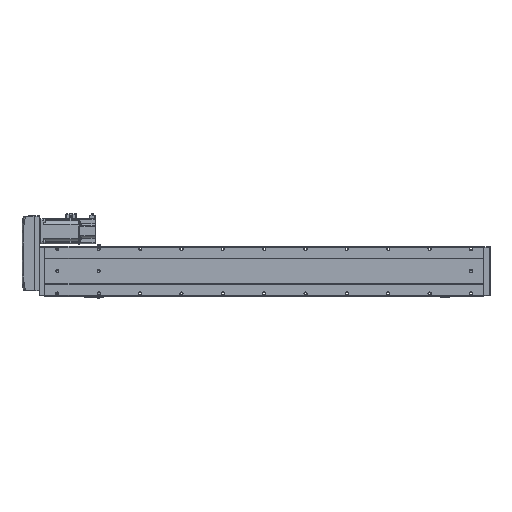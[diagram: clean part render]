
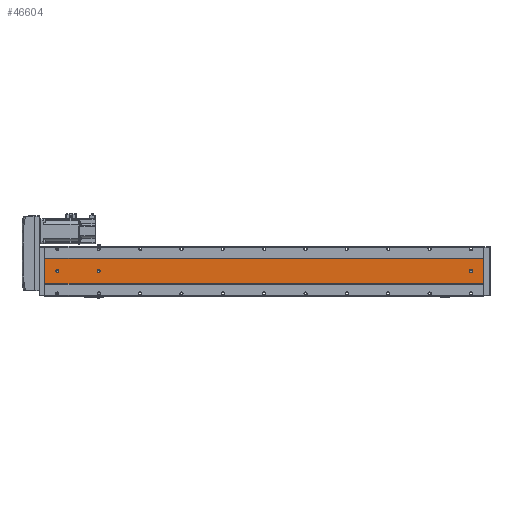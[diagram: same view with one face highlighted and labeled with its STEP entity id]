
A CAD part, front view. The second image highlights one B-rep face of the part: STEP entity #46604.
In plain terms, the highlighted planar face has unit normal (0, -1, 0).
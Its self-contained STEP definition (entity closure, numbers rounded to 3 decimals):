
#214 = EDGE_CURVE ( 'NONE', #59429, #60020, #106039, .T. ) ;
#1721 = EDGE_CURVE ( 'NONE', #69744, #11440, #61436, .T. ) ;
#2120 = ORIENTED_EDGE ( 'NONE', *, *, #214, .T. ) ;
#3124 = LINE ( 'NONE', #102162, #16514 ) ;
#3532 = DIRECTION ( 'NONE',  ( 1., 0., 0. ) ) ;
#5937 = DIRECTION ( 'NONE',  ( 0., 1., 0. ) ) ;
#6012 = DIRECTION ( 'NONE',  ( 0., 0., 1. ) ) ;
#6776 = VECTOR ( 'NONE', #53075, 1000. ) ;
#8789 = VERTEX_POINT ( 'NONE', #87831 ) ;
#11373 = ORIENTED_EDGE ( 'NONE', *, *, #17008, .T. ) ;
#11440 = VERTEX_POINT ( 'NONE', #28250 ) ;
#12018 = ORIENTED_EDGE ( 'NONE', *, *, #91491, .T. ) ;
#13884 = CARTESIAN_POINT ( 'NONE',  ( -43.392, -52.848, 30. ) ) ;
#14081 = ORIENTED_EDGE ( 'NONE', *, *, #103737, .F. ) ;
#14409 = AXIS2_PLACEMENT_3D ( 'NONE', #73999, #22582, #56545 ) ;
#15015 = LINE ( 'NONE', #51047, #49701 ) ;
#16429 = CARTESIAN_POINT ( 'NONE',  ( -9.892, -52.848, 0. ) ) ;
#16514 = VECTOR ( 'NONE', #51102, 1000. ) ;
#17008 = EDGE_CURVE ( 'NONE', #60020, #59429, #83504, .T. ) ;
#22202 = CARTESIAN_POINT ( 'NONE',  ( -43.392, -52.848, 1061. ) ) ;
#22582 = DIRECTION ( 'NONE',  ( 0., 1., 0. ) ) ;
#22887 = AXIS2_PLACEMENT_3D ( 'NONE', #43689, #103341, #60896 ) ;
#23100 = DIRECTION ( 'NONE',  ( 0., 0., 1. ) ) ;
#23394 = VERTEX_POINT ( 'NONE', #48844 ) ;
#23539 = CARTESIAN_POINT ( 'NONE',  ( -39.892, -52.848, 32. ) ) ;
#23575 = ORIENTED_EDGE ( 'NONE', *, *, #100267, .T. ) ;
#24083 = AXIS2_PLACEMENT_3D ( 'NONE', #59485, #76958, #51991 ) ;
#25051 = AXIS2_PLACEMENT_3D ( 'NONE', #105624, #46669, #80246 ) ;
#27269 = PLANE ( 'NONE',  #25051 ) ;
#28250 = CARTESIAN_POINT ( 'NONE',  ( -39.892, -52.848, 927.5 ) ) ;
#28516 = ORIENTED_EDGE ( 'NONE', *, *, #91723, .T. ) ;
#29671 = EDGE_LOOP ( 'NONE', ( #84544, #40377, #14081, #95118 ) ) ;
#31650 = FACE_BOUND ( 'NONE', #102307, .T. ) ;
#31703 = CIRCLE ( 'NONE', #14409, 3.5 ) ;
#34297 = VECTOR ( 'NONE', #3532, 1000. ) ;
#36549 = CARTESIAN_POINT ( 'NONE',  ( -36.392, -52.848, 32. ) ) ;
#37709 = VERTEX_POINT ( 'NONE', #75603 ) ;
#37889 = CARTESIAN_POINT ( 'NONE',  ( -69.892, -52.848, 0. ) ) ;
#39947 = EDGE_LOOP ( 'NONE', ( #107625, #61508 ) ) ;
#40377 = ORIENTED_EDGE ( 'NONE', *, *, #54669, .F. ) ;
#40960 = LINE ( 'NONE', #22202, #65008 ) ;
#41683 = EDGE_CURVE ( 'NONE', #72516, #92075, #57130, .T. ) ;
#41841 = CARTESIAN_POINT ( 'NONE',  ( -39.892, -52.848, 1027.5 ) ) ;
#41848 = DIRECTION ( 'NONE',  ( 0., 0., 1. ) ) ;
#43689 = CARTESIAN_POINT ( 'NONE',  ( -39.892, -52.848, 931. ) ) ;
#44155 = LINE ( 'NONE', #60930, #6776 ) ;
#46368 = ORIENTED_EDGE ( 'NONE', *, *, #68066, .T. ) ;
#46604 = ADVANCED_FACE ( 'NONE', ( #31650, #102374, #83697, #61044 ), #27269, .F. ) ;
#46669 = DIRECTION ( 'NONE',  ( 0., 1., 0. ) ) ;
#48844 = CARTESIAN_POINT ( 'NONE',  ( -43.392, -52.848, 32. ) ) ;
#49311 = VERTEX_POINT ( 'NONE', #13884 ) ;
#49701 = VECTOR ( 'NONE', #59672, 1000. ) ;
#51047 = CARTESIAN_POINT ( 'NONE',  ( -36.392, -52.848, 1061. ) ) ;
#51102 = DIRECTION ( 'NONE',  ( 0., 0., -1. ) ) ;
#51991 = DIRECTION ( 'NONE',  ( 0., 0., 1. ) ) ;
#52342 = VERTEX_POINT ( 'NONE', #61897 ) ;
#53075 = DIRECTION ( 'NONE',  ( 1., 0., 0. ) ) ;
#54473 = CIRCLE ( 'NONE', #86578, 3.5 ) ;
#54669 = EDGE_CURVE ( 'NONE', #8789, #92075, #3124, .T. ) ;
#56496 = CIRCLE ( 'NONE', #106231, 3.5 ) ;
#56545 = DIRECTION ( 'NONE',  ( 0., 0., 1. ) ) ;
#57130 = LINE ( 'NONE', #89345, #34297 ) ;
#57596 = CARTESIAN_POINT ( 'NONE',  ( -69.892, -52.848, 1061. ) ) ;
#59429 = VERTEX_POINT ( 'NONE', #99364 ) ;
#59485 = CARTESIAN_POINT ( 'NONE',  ( -39.892, -52.848, 931. ) ) ;
#59672 = DIRECTION ( 'NONE',  ( 0., 0., -1. ) ) ;
#60020 = VERTEX_POINT ( 'NONE', #41841 ) ;
#60791 = CARTESIAN_POINT ( 'NONE',  ( -39.892, -52.848, 26.5 ) ) ;
#60896 = DIRECTION ( 'NONE',  ( 0., 0., 1. ) ) ;
#60930 = CARTESIAN_POINT ( 'NONE',  ( -69.892, -52.848, 1061. ) ) ;
#61044 = FACE_OUTER_BOUND ( 'NONE', #29671, .T. ) ;
#61436 = CIRCLE ( 'NONE', #24083, 3.5 ) ;
#61508 = ORIENTED_EDGE ( 'NONE', *, *, #1721, .T. ) ;
#61897 = CARTESIAN_POINT ( 'NONE',  ( -36.392, -52.848, 30. ) ) ;
#65008 = VECTOR ( 'NONE', #90461, 1000. ) ;
#65949 = EDGE_LOOP ( 'NONE', ( #11373, #2120 ) ) ;
#66402 = VERTEX_POINT ( 'NONE', #60791 ) ;
#68066 = EDGE_CURVE ( 'NONE', #49311, #23394, #40960, .T. ) ;
#69744 = VERTEX_POINT ( 'NONE', #103158 ) ;
#69955 = LINE ( 'NONE', #57596, #80650 ) ;
#72516 = VERTEX_POINT ( 'NONE', #37889 ) ;
#73999 = CARTESIAN_POINT ( 'NONE',  ( -39.892, -52.848, 30. ) ) ;
#75394 = AXIS2_PLACEMENT_3D ( 'NONE', #110291, #101675, #102046 ) ;
#75451 = DIRECTION ( 'NONE',  ( 0., 1., 0. ) ) ;
#75603 = CARTESIAN_POINT ( 'NONE',  ( -69.892, -52.848, 1061. ) ) ;
#76620 = EDGE_CURVE ( 'NONE', #23394, #87930, #56496, .T. ) ;
#76958 = DIRECTION ( 'NONE',  ( 0., 1., 0. ) ) ;
#80246 = DIRECTION ( 'NONE',  ( 0., 0., 1. ) ) ;
#80650 = VECTOR ( 'NONE', #83281, 1000. ) ;
#81795 = AXIS2_PLACEMENT_3D ( 'NONE', #107442, #5937, #23100 ) ;
#83281 = DIRECTION ( 'NONE',  ( 0., 0., -1. ) ) ;
#83504 = CIRCLE ( 'NONE', #81795, 3.5 ) ;
#83697 = FACE_BOUND ( 'NONE', #65949, .T. ) ;
#84376 = CARTESIAN_POINT ( 'NONE',  ( -39.892, -52.848, 30. ) ) ;
#84544 = ORIENTED_EDGE ( 'NONE', *, *, #41683, .T. ) ;
#86578 = AXIS2_PLACEMENT_3D ( 'NONE', #84376, #75451, #41848 ) ;
#87831 = CARTESIAN_POINT ( 'NONE',  ( -9.892, -52.848, 1061. ) ) ;
#87930 = VERTEX_POINT ( 'NONE', #36549 ) ;
#89345 = CARTESIAN_POINT ( 'NONE',  ( -69.892, -52.848, 0. ) ) ;
#89595 = EDGE_CURVE ( 'NONE', #11440, #69744, #106191, .T. ) ;
#90461 = DIRECTION ( 'NONE',  ( 0., 0., 1. ) ) ;
#91491 = EDGE_CURVE ( 'NONE', #66402, #49311, #31703, .T. ) ;
#91723 = EDGE_CURVE ( 'NONE', #52342, #66402, #54473, .T. ) ;
#92075 = VERTEX_POINT ( 'NONE', #16429 ) ;
#95118 = ORIENTED_EDGE ( 'NONE', *, *, #106262, .T. ) ;
#99364 = CARTESIAN_POINT ( 'NONE',  ( -39.892, -52.848, 1034.5 ) ) ;
#100267 = EDGE_CURVE ( 'NONE', #87930, #52342, #15015, .T. ) ;
#101665 = ORIENTED_EDGE ( 'NONE', *, *, #76620, .T. ) ;
#101675 = DIRECTION ( 'NONE',  ( 0., 1., 0. ) ) ;
#102046 = DIRECTION ( 'NONE',  ( 0., 0., 1. ) ) ;
#102162 = CARTESIAN_POINT ( 'NONE',  ( -9.892, -52.848, 1061. ) ) ;
#102307 = EDGE_LOOP ( 'NONE', ( #46368, #101665, #23575, #28516, #12018 ) ) ;
#102374 = FACE_BOUND ( 'NONE', #39947, .T. ) ;
#103158 = CARTESIAN_POINT ( 'NONE',  ( -39.892, -52.848, 934.5 ) ) ;
#103341 = DIRECTION ( 'NONE',  ( 0., 1., 0. ) ) ;
#103737 = EDGE_CURVE ( 'NONE', #37709, #8789, #44155, .T. ) ;
#105624 = CARTESIAN_POINT ( 'NONE',  ( -69.892, -52.848, 1061. ) ) ;
#106039 = CIRCLE ( 'NONE', #75394, 3.5 ) ;
#106191 = CIRCLE ( 'NONE', #22887, 3.5 ) ;
#106231 = AXIS2_PLACEMENT_3D ( 'NONE', #23539, #108587, #6012 ) ;
#106262 = EDGE_CURVE ( 'NONE', #37709, #72516, #69955, .T. ) ;
#107442 = CARTESIAN_POINT ( 'NONE',  ( -39.892, -52.848, 1031. ) ) ;
#107625 = ORIENTED_EDGE ( 'NONE', *, *, #89595, .T. ) ;
#108587 = DIRECTION ( 'NONE',  ( 0., 1., 0. ) ) ;
#110291 = CARTESIAN_POINT ( 'NONE',  ( -39.892, -52.848, 1031. ) ) ;
